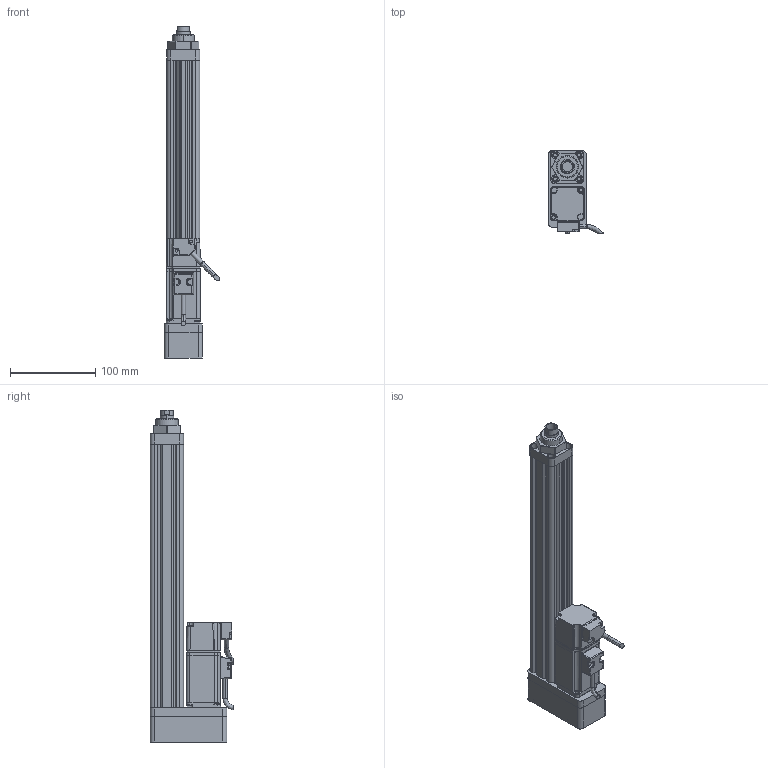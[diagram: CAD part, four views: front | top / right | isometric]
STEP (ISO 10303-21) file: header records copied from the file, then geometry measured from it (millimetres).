
FILE_DESCRIPTION (( 'STEP AP214' ), '1' );
FILE_NAME ('039-S250-D02-B-M4-C2-2.STEP', '2021-02-25T08:59:14', ( '' ), ( '' ), 'SwSTEP 2.0', 'SolidWorks 2018', '' );
FILE_SCHEMA (( 'AUTOMOTIVE_DESIGN' ));
Length unit declared in the file: millimetre
Products named in the file (8): CMC039-FL; 039-S250-D02-B-M4-C2-2; CMC039-GT; CMC039-DT; CMC039-HXT; CMC039-M261; CMC039-LJB; ECMA-CX0401ES-40框號系列機種-100W低慣量系列
Assembly tree (7 placements, depth 2):
  039-S250-D02-B-M4-C2-2
    CMC039-GT
    CMC039-LJB
    CMC039-FL
    CMC039-DT
    ECMA-CX0401ES-40框號系列機種-100W低慣量系列
    CMC039-M261
    CMC039-HXT
Bounding box: 65.34 x 97.89 x 390 mm (x, y, z)
Volume: 533518.8 mm3; surface area: 180414.9 mm2
Topology: 7 solids, 15 shells, 697 faces, 1812 edges, 1126 vertices
Faces by surface type: cylinder 287, plane 269, bspline 84, cone 57
Entity records: 27531 total; most frequent: CARTESIAN_POINT 11127, ORIENTED_EDGE 3558, DIRECTION 2940, EDGE_CURVE 1779, VERTEX_POINT 1126, AXIS2_PLACEMENT_3D 1026, VECTOR 888, LINE 888
